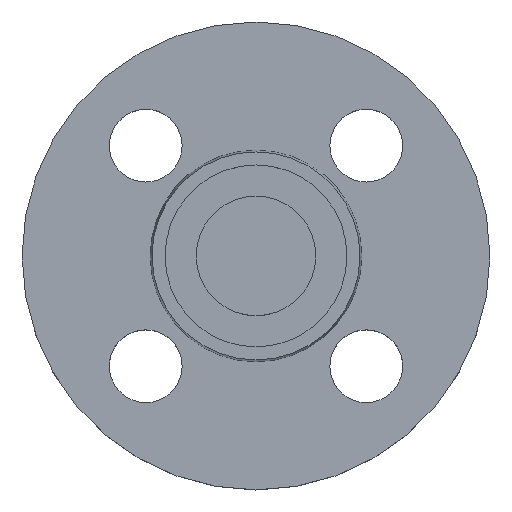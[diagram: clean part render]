
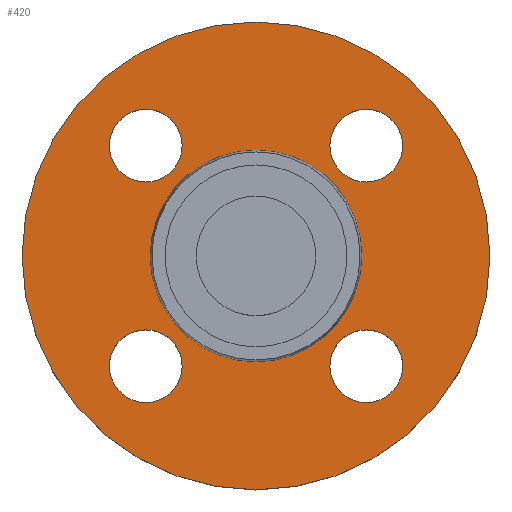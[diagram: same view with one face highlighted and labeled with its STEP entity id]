
A CAD part, top view. The second image highlights one B-rep face of the part: STEP entity #420.
In plain terms, the highlighted planar face has unit normal (0, 0, 1).
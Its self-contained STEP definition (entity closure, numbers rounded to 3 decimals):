
#2 = AXIS2_PLACEMENT_3D ( 'NONE', #300, #242, #157 ) ;
#4 = AXIS2_PLACEMENT_3D ( 'NONE', #641, #642, #643 ) ;
#5 = CIRCLE ( 'NONE', #2, 20.353 ) ;
#14 = EDGE_CURVE ( 'NONE', #367, #310, #120, .T. ) ;
#17 = EDGE_CURVE ( 'NONE', #471, #467, #24, .T. ) ;
#21 = AXIS2_PLACEMENT_3D ( 'NONE', #572, #573, #574 ) ;
#24 = CIRCLE ( 'NONE', #73, 7. ) ;
#27 = CIRCLE ( 'NONE', #4, 7. ) ;
#28 = AXIS2_PLACEMENT_3D ( 'NONE', #661, #662, #663 ) ;
#29 = AXIS2_PLACEMENT_3D ( 'NONE', #503, #504, #505 ) ;
#42 = CIRCLE ( 'NONE', #100, 7. ) ;
#48 = EDGE_CURVE ( 'NONE', #459, #339, #148, .T. ) ;
#54 = AXIS2_PLACEMENT_3D ( 'NONE', #260, #261, #262 ) ;
#56 = CIRCLE ( 'NONE', #64, 7. ) ;
#64 = AXIS2_PLACEMENT_3D ( 'NONE', #529, #293, #189 ) ;
#68 = AXIS2_PLACEMENT_3D ( 'NONE', #243, #245, #246 ) ;
#73 = AXIS2_PLACEMENT_3D ( 'NONE', #509, #510, #511 ) ;
#75 = AXIS2_PLACEMENT_3D ( 'NONE', #569, #570, #571 ) ;
#78 = CIRCLE ( 'NONE', #68, 20.353 ) ;
#97 = CIRCLE ( 'NONE', #75, 7. ) ;
#98 = CIRCLE ( 'NONE', #21, 45. ) ;
#100 = AXIS2_PLACEMENT_3D ( 'NONE', #623, #624, #625 ) ;
#103 = EDGE_CURVE ( 'NONE', #327, #371, #97, .T. ) ;
#106 = EDGE_CURVE ( 'NONE', #339, #459, #98, .T. ) ;
#111 = CIRCLE ( 'NONE', #28, 7. ) ;
#120 = CIRCLE ( 'NONE', #29, 7. ) ;
#122 = CIRCLE ( 'NONE', #124, 7. ) ;
#124 = AXIS2_PLACEMENT_3D ( 'NONE', #614, #615, #617 ) ;
#148 = CIRCLE ( 'NONE', #149, 45. ) ;
#149 = AXIS2_PLACEMENT_3D ( 'NONE', #535, #536, #537 ) ;
#157 = DIRECTION ( 'NONE',  ( -1., 0., 0. ) ) ;
#159 = CARTESIAN_POINT ( 'NONE',  ( 20.353, 0., -2. ) ) ;
#166 = CARTESIAN_POINT ( 'NONE',  ( 45., 0., -2. ) ) ;
#168 = CARTESIAN_POINT ( 'NONE',  ( -20.353, 0., -2. ) ) ;
#171 = CARTESIAN_POINT ( 'NONE',  ( -28.213, 21.213, -2. ) ) ;
#176 = CARTESIAN_POINT ( 'NONE',  ( 14.213, -21.213, -2. ) ) ;
#189 = DIRECTION ( 'NONE',  ( 1., 0., 0. ) ) ;
#191 = EDGE_CURVE ( 'NONE', #335, #460, #122, .T. ) ;
#202 = CARTESIAN_POINT ( 'NONE',  ( -14.213, 21.213, -2. ) ) ;
#206 = CARTESIAN_POINT ( 'NONE',  ( 28.213, 21.213, -2. ) ) ;
#207 = EDGE_CURVE ( 'NONE', #467, #471, #42, .T. ) ;
#219 = CARTESIAN_POINT ( 'NONE',  ( -14.213, -21.213, -2. ) ) ;
#224 = CARTESIAN_POINT ( 'NONE',  ( 28.213, -21.213, -2. ) ) ;
#225 = CARTESIAN_POINT ( 'NONE',  ( -45., 0., -2. ) ) ;
#237 = CARTESIAN_POINT ( 'NONE',  ( 14.213, 21.213, -2. ) ) ;
#238 = CARTESIAN_POINT ( 'NONE',  ( -28.213, -21.213, -2. ) ) ;
#242 = DIRECTION ( 'NONE',  ( 0., 0., -1. ) ) ;
#243 = CARTESIAN_POINT ( 'NONE',  ( 0., 0., -2. ) ) ;
#245 = DIRECTION ( 'NONE',  ( 0., 0., -1. ) ) ;
#246 = DIRECTION ( 'NONE',  ( -1., 0., 0. ) ) ;
#250 = FACE_BOUND ( 'NONE', #378, .T. ) ;
#251 = FACE_BOUND ( 'NONE', #475, .T. ) ;
#252 = FACE_BOUND ( 'NONE', #333, .T. ) ;
#253 = FACE_BOUND ( 'NONE', #319, .T. ) ;
#254 = FACE_BOUND ( 'NONE', #474, .T. ) ;
#256 = FACE_OUTER_BOUND ( 'NONE', #369, .T. ) ;
#258 = PLANE ( 'NONE',  #54 ) ;
#260 = CARTESIAN_POINT ( 'NONE',  ( 20.353, 0., -2. ) ) ;
#261 = DIRECTION ( 'NONE',  ( 0., 0., 1. ) ) ;
#262 = DIRECTION ( 'NONE',  ( 1., 0., 0. ) ) ;
#271 = EDGE_CURVE ( 'NONE', #371, #327, #27, .T. ) ;
#283 = EDGE_CURVE ( 'NONE', #460, #335, #111, .T. ) ;
#293 = DIRECTION ( 'NONE',  ( 0., 0., -1. ) ) ;
#300 = CARTESIAN_POINT ( 'NONE',  ( 0., 0., -2. ) ) ;
#310 = VERTEX_POINT ( 'NONE', #206 ) ;
#319 = EDGE_LOOP ( 'NONE', ( #368, #366 ) ) ;
#327 = VERTEX_POINT ( 'NONE', #219 ) ;
#329 = ORIENTED_EDGE ( 'NONE', *, *, #407, .T. ) ;
#330 = ORIENTED_EDGE ( 'NONE', *, *, #496, .T. ) ;
#333 = EDGE_LOOP ( 'NONE', ( #398, #370 ) ) ;
#335 = VERTEX_POINT ( 'NONE', #224 ) ;
#339 = VERTEX_POINT ( 'NONE', #225 ) ;
#366 = ORIENTED_EDGE ( 'NONE', *, *, #14, .T. ) ;
#367 = VERTEX_POINT ( 'NONE', #237 ) ;
#368 = ORIENTED_EDGE ( 'NONE', *, *, #491, .T. ) ;
#369 = EDGE_LOOP ( 'NONE', ( #480, #478 ) ) ;
#370 = ORIENTED_EDGE ( 'NONE', *, *, #207, .T. ) ;
#371 = VERTEX_POINT ( 'NONE', #238 ) ;
#378 = EDGE_LOOP ( 'NONE', ( #402, #401 ) ) ;
#398 = ORIENTED_EDGE ( 'NONE', *, *, #17, .T. ) ;
#399 = ORIENTED_EDGE ( 'NONE', *, *, #271, .T. ) ;
#400 = ORIENTED_EDGE ( 'NONE', *, *, #103, .T. ) ;
#401 = ORIENTED_EDGE ( 'NONE', *, *, #283, .T. ) ;
#402 = ORIENTED_EDGE ( 'NONE', *, *, #191, .T. ) ;
#407 = EDGE_CURVE ( 'NONE', #473, #465, #78, .T. ) ;
#420 = ADVANCED_FACE ( 'NONE', ( #250, #251, #252, #253, #254, #256 ), #258, .T. ) ;
#459 = VERTEX_POINT ( 'NONE', #166 ) ;
#460 = VERTEX_POINT ( 'NONE', #176 ) ;
#465 = VERTEX_POINT ( 'NONE', #159 ) ;
#467 = VERTEX_POINT ( 'NONE', #171 ) ;
#471 = VERTEX_POINT ( 'NONE', #202 ) ;
#473 = VERTEX_POINT ( 'NONE', #168 ) ;
#474 = EDGE_LOOP ( 'NONE', ( #329, #330 ) ) ;
#475 = EDGE_LOOP ( 'NONE', ( #400, #399 ) ) ;
#478 = ORIENTED_EDGE ( 'NONE', *, *, #106, .F. ) ;
#480 = ORIENTED_EDGE ( 'NONE', *, *, #48, .F. ) ;
#491 = EDGE_CURVE ( 'NONE', #310, #367, #56, .T. ) ;
#496 = EDGE_CURVE ( 'NONE', #465, #473, #5, .T. ) ;
#503 = CARTESIAN_POINT ( 'NONE',  ( 21.213, 21.213, -2. ) ) ;
#504 = DIRECTION ( 'NONE',  ( 0., 0., -1. ) ) ;
#505 = DIRECTION ( 'NONE',  ( 1., 0., 0. ) ) ;
#509 = CARTESIAN_POINT ( 'NONE',  ( -21.213, 21.213, -2. ) ) ;
#510 = DIRECTION ( 'NONE',  ( 0., 0., -1. ) ) ;
#511 = DIRECTION ( 'NONE',  ( 1., 0., 0. ) ) ;
#529 = CARTESIAN_POINT ( 'NONE',  ( 21.213, 21.213, -2. ) ) ;
#535 = CARTESIAN_POINT ( 'NONE',  ( 0., 0., -2. ) ) ;
#536 = DIRECTION ( 'NONE',  ( 0., 0., -1. ) ) ;
#537 = DIRECTION ( 'NONE',  ( -1., 0., 0. ) ) ;
#569 = CARTESIAN_POINT ( 'NONE',  ( -21.213, -21.213, -2. ) ) ;
#570 = DIRECTION ( 'NONE',  ( 0., 0., -1. ) ) ;
#571 = DIRECTION ( 'NONE',  ( 1., 0., 0. ) ) ;
#572 = CARTESIAN_POINT ( 'NONE',  ( 0., 0., -2. ) ) ;
#573 = DIRECTION ( 'NONE',  ( 0., 0., -1. ) ) ;
#574 = DIRECTION ( 'NONE',  ( -1., 0., 0. ) ) ;
#614 = CARTESIAN_POINT ( 'NONE',  ( 21.213, -21.213, -2. ) ) ;
#615 = DIRECTION ( 'NONE',  ( 0., 0., -1. ) ) ;
#617 = DIRECTION ( 'NONE',  ( 1., 0., 0. ) ) ;
#623 = CARTESIAN_POINT ( 'NONE',  ( -21.213, 21.213, -2. ) ) ;
#624 = DIRECTION ( 'NONE',  ( 0., 0., -1. ) ) ;
#625 = DIRECTION ( 'NONE',  ( 1., 0., 0. ) ) ;
#641 = CARTESIAN_POINT ( 'NONE',  ( -21.213, -21.213, -2. ) ) ;
#642 = DIRECTION ( 'NONE',  ( 0., 0., -1. ) ) ;
#643 = DIRECTION ( 'NONE',  ( 1., 0., 0. ) ) ;
#661 = CARTESIAN_POINT ( 'NONE',  ( 21.213, -21.213, -2. ) ) ;
#662 = DIRECTION ( 'NONE',  ( 0., 0., -1. ) ) ;
#663 = DIRECTION ( 'NONE',  ( 1., 0., 0. ) ) ;
